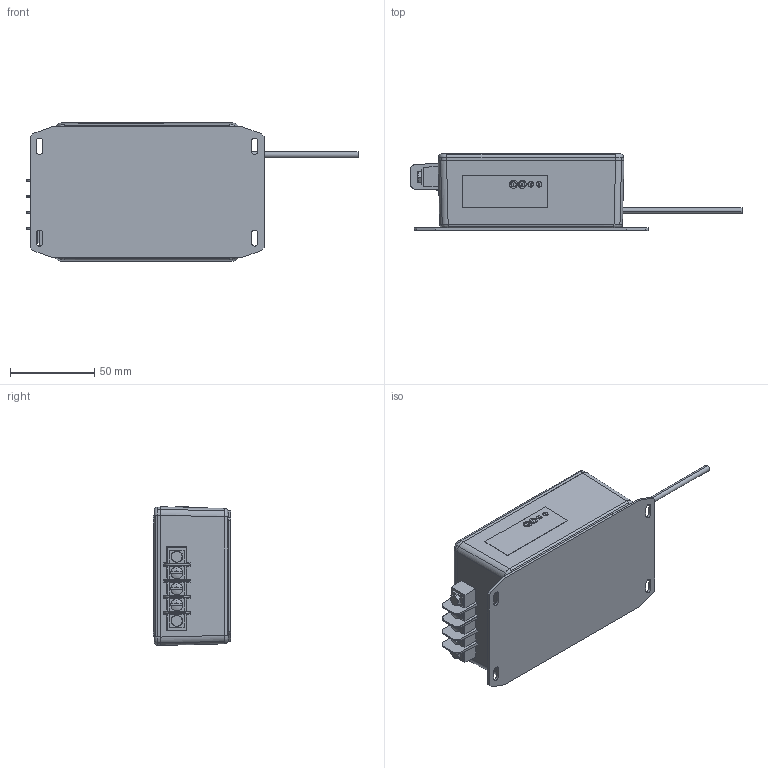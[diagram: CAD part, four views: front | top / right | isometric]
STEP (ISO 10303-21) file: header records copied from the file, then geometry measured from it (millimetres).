
FILE_DESCRIPTION (( 'STEP AP203' ), '1' );
FILE_NAME ('D-STD - Rev A.STEP', '2018-01-31T19:25:49', ( '' ), ( '' ), 'SwSTEP 2.0', 'SolidWorks 2018', '' );
FILE_SCHEMA (( 'CONFIG_CONTROL_DESIGN' ));
Length unit declared in the file: inch
Products named in the file (15): D-STD Top Label; 1590S Box - D-STD Rev A; D-STD Control Label; 1590S Lid; 95584A201_TYPE 18-8 SS EXTERNAL-TOOTH LOCK WASHER_95584A201; SC530 (screw #6-32X 1_2'''' FH); Adjustment Screw; 1590S Flange; DSTD- FO Cable End; 1590SF-D-STD-REV A; D-Label Pot Cover; 70110958-A; D-STD - Rev A; 92314A151_18-8 STAINLESS STEEL HEX HEAD MACHINE SCREW_92314A151; 91841A007_TYPE 18-8 STAINLESS STEEL HEX NUT_91841A007
Assembly tree (24 placements, depth 3):
  D-STD - Rev A
    1590SF-D-STD-REV A
      1590S Box - D-STD Rev A
      1590S Lid
      SC530 (screw #6-32X 1_2'''' FH)  x4
      1590S Flange
    70110958-A
    92314A151_18-8 STAINLESS STEEL HEX HEAD MACHINE SCREW_92314A151  x2
    91841A007_TYPE 18-8 STAINLESS STEEL HEX NUT_91841A007  x2
    D-STD Top Label
    D-STD Control Label
    95584A201_TYPE 18-8 SS EXTERNAL-TOOTH LOCK WASHER_95584A201  x2
    Adjustment Screw  x4
    DSTD- FO Cable End
    D-Label Pot Cover  x2
Bounding box: 197.38 x 45.86 x 82.57 mm (x, y, z)
Volume: 110020.6 mm3; surface area: 113032.8 mm2
Topology: 25 solids, 25 shells, 1314 faces, 3383 edges, 2155 vertices
Faces by surface type: plane 460, cylinder 396, bspline 344, cone 90, sphere 16, torus 8
Entity records: 39341 total; most frequent: CARTESIAN_POINT 14960, ORIENTED_EDGE 5148, DIRECTION 3893, EDGE_CURVE 2574, VERTEX_POINT 1648, VECTOR 1489, LINE 1489, AXIS2_PLACEMENT_3D 1202
